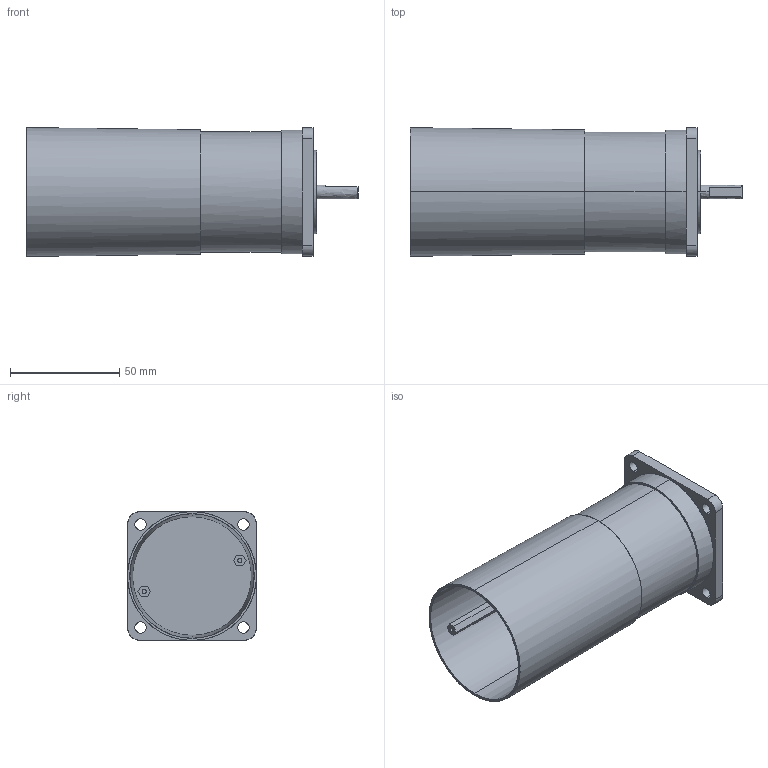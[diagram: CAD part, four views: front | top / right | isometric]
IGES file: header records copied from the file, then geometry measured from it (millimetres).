
Start section: Comment
Global section: file name: MAC095-A1.igs; native system:  By Spatial Corp.; preprocessor: XPlus GENERIC/IGES 3.0; author: Author; organization: Title; date: 20060113.090007; units: millimetre
Bounding box: 152.07 x 58.88 x 59 mm (x, y, z)
Surface area: 47398.6 mm2 (no closed solid volume)
Topology: 0 solids, 0 shells, 58 faces, 276 edges, 276 vertices
Faces by surface type: bspline 58
